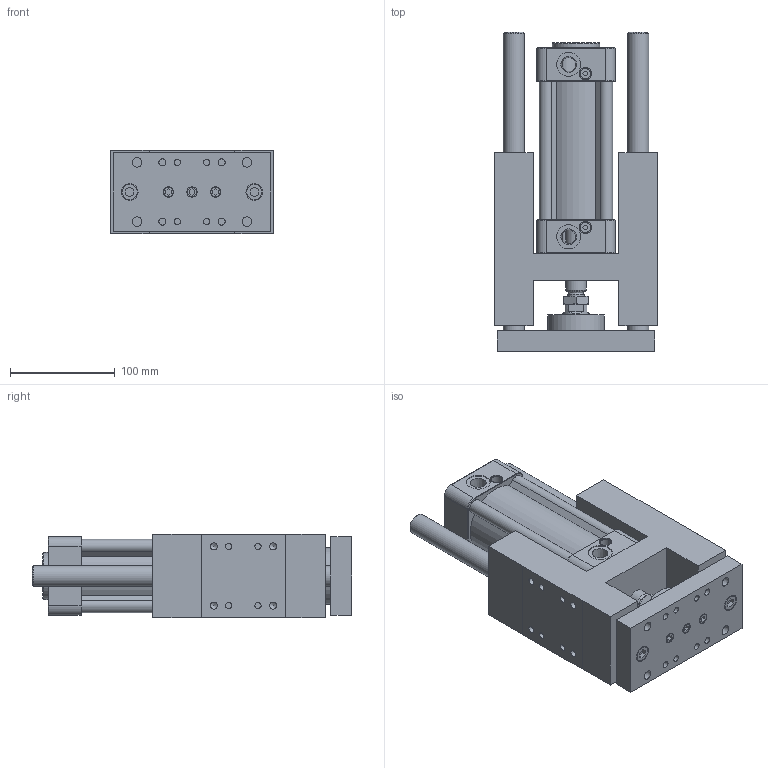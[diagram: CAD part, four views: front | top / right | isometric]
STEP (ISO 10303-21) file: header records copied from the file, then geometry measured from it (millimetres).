
FILE_DESCRIPTION((''),'2;1');
FILE_NAME('I:\3D電子目錄\氣缸\GHB(U)\GHB(U)\GHB(U)63\GHB(U)63x75.stp','2007-10-22T13:17:22',('Administrator'),(''),'Autodesk Inventor 11','Autodesk Inventor 11','');
FILE_SCHEMA(('AUTOMOTIVE_DESIGN { 1 0 10303 214 1 1 1 1 }'));
Length unit declared in the file: millimetre
Products named in the file (1): GHB(U)63
Bounding box: 156 x 305 x 80 mm (x, y, z)
Volume: 1845563.6 mm3; surface area: 328262.2 mm2
Topology: 1 solids, 13 shells, 789 faces, 1754 edges, 1088 vertices
Faces by surface type: plane 303, bspline 237, cylinder 159, cone 88, torus 2
Full cylindrical faces by diameter (mm): 2.5 x2, 6 x4, 6.647 x4, 6.7 x2, 6.75 x4, 7.25 x4, 7.4 x4, 7.5 x2, 8.5 x9, 9 x2, 9.8 x4, 10 x5, 11.5 x1, 11.9 x1, 12 x3, 13 x4, 14 x8, 14.5 x2, 16 x3, 20 x4, 23 x3, 25 x1, 26 x2, 45 x1, 54 x1, 63 x1
Entity records: 22867 total; most frequent: CARTESIAN_POINT 7086, DIRECTION 3132, ORIENTED_EDGE 3076, EDGE_CURVE 1538, AXIS2_PLACEMENT_3D 1207, EDGE_LOOP 1075, VERTEX_POINT 1047, FACE_OUTER_BOUND 789
